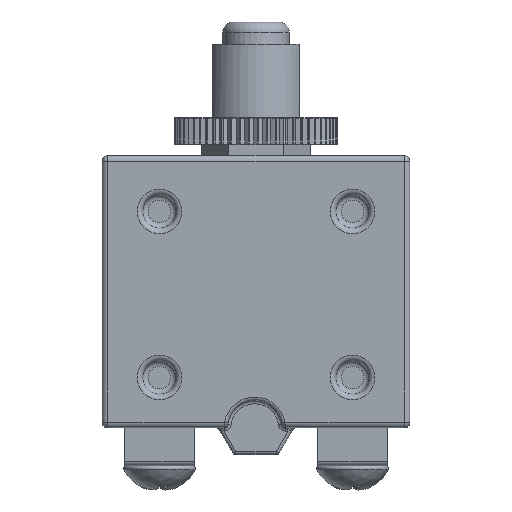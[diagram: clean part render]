
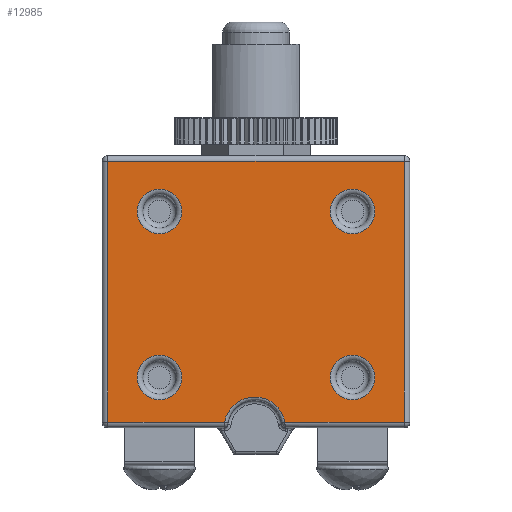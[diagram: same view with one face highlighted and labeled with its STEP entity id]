
A CAD part, top view. The second image highlights one B-rep face of the part: STEP entity #12985.
In plain terms, the highlighted planar face has unit normal (0, 0, 1).
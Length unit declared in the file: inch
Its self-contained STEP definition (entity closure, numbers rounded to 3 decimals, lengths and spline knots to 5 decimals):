
#393=FACE_BOUND('',#3699,.T.);
#394=FACE_BOUND('',#3700,.T.);
#395=FACE_BOUND('',#3701,.T.);
#396=FACE_BOUND('',#3702,.T.);
#420=PLANE('',#14078);
#649=LINE('',#20535,#1528);
#651=LINE('',#20554,#1530);
#652=LINE('',#20556,#1531);
#653=LINE('',#20558,#1532);
#654=LINE('',#20559,#1533);
#1528=VECTOR('',#15984,0.3937);
#1530=VECTOR('',#16010,0.3937);
#1531=VECTOR('',#16011,0.3937);
#1532=VECTOR('',#16012,0.3937);
#1533=VECTOR('',#16013,0.3937);
#2821=FACE_OUTER_BOUND('',#3698,.T.);
#3698=EDGE_LOOP('',(#8873,#8874,#8875,#8876,#8877,#8878));
#3699=EDGE_LOOP('',(#8879));
#3700=EDGE_LOOP('',(#8880));
#3701=EDGE_LOOP('',(#8881));
#3702=EDGE_LOOP('',(#8882));
#4580=CIRCLE('',#14035,0.1375);
#4597=CIRCLE('',#14076,0.1);
#4599=CIRCLE('',#14079,0.1);
#4600=CIRCLE('',#14080,0.1);
#4601=CIRCLE('',#14081,0.1);
#5450=VERTEX_POINT('',#20351);
#5452=VERTEX_POINT('',#20365);
#5465=VERTEX_POINT('',#20534);
#5469=VERTEX_POINT('',#20549);
#5470=VERTEX_POINT('',#20553);
#5471=VERTEX_POINT('',#20555);
#5472=VERTEX_POINT('',#20557);
#5473=VERTEX_POINT('',#20560);
#5474=VERTEX_POINT('',#20562);
#5475=VERTEX_POINT('',#20564);
#6667=EDGE_CURVE('',#5452,#5450,#4580,.T.);
#6703=EDGE_CURVE('',#5450,#5465,#649,.T.);
#6710=EDGE_CURVE('',#5469,#5469,#4597,.T.);
#6712=EDGE_CURVE('',#5470,#5452,#651,.T.);
#6713=EDGE_CURVE('',#5471,#5470,#652,.T.);
#6714=EDGE_CURVE('',#5472,#5471,#653,.T.);
#6715=EDGE_CURVE('',#5465,#5472,#654,.T.);
#6716=EDGE_CURVE('',#5473,#5473,#4599,.T.);
#6717=EDGE_CURVE('',#5474,#5474,#4600,.T.);
#6718=EDGE_CURVE('',#5475,#5475,#4601,.T.);
#8873=ORIENTED_EDGE('',*,*,#6667,.F.);
#8874=ORIENTED_EDGE('',*,*,#6712,.F.);
#8875=ORIENTED_EDGE('',*,*,#6713,.F.);
#8876=ORIENTED_EDGE('',*,*,#6714,.F.);
#8877=ORIENTED_EDGE('',*,*,#6715,.F.);
#8878=ORIENTED_EDGE('',*,*,#6703,.F.);
#8879=ORIENTED_EDGE('',*,*,#6716,.F.);
#8880=ORIENTED_EDGE('',*,*,#6717,.F.);
#8881=ORIENTED_EDGE('',*,*,#6718,.F.);
#8882=ORIENTED_EDGE('',*,*,#6710,.F.);
#12985=ADVANCED_FACE('',(#2821,#393,#394,#395,#396),#420,.T.);
#14035=AXIS2_PLACEMENT_3D('',#20367,#15902,#15903);
#14076=AXIS2_PLACEMENT_3D('',#20550,#16004,#16005);
#14078=AXIS2_PLACEMENT_3D('',#20552,#16008,#16009);
#14079=AXIS2_PLACEMENT_3D('',#20561,#16014,#16015);
#14080=AXIS2_PLACEMENT_3D('',#20563,#16016,#16017);
#14081=AXIS2_PLACEMENT_3D('',#20565,#16018,#16019);
#15902=DIRECTION('center_axis',(0.,0.,1.));
#15903=DIRECTION('ref_axis',(0.,1.,0.));
#15984=DIRECTION('',(-1.,0.,0.));
#16004=DIRECTION('center_axis',(0.,0.,1.));
#16005=DIRECTION('ref_axis',(-1.,0.,0.));
#16008=DIRECTION('center_axis',(0.,0.,1.));
#16009=DIRECTION('ref_axis',(1.,0.,0.));
#16010=DIRECTION('',(-1.,0.,0.));
#16011=DIRECTION('',(0.,-1.,0.));
#16012=DIRECTION('',(1.,0.,0.));
#16013=DIRECTION('',(0.,1.,0.));
#16014=DIRECTION('center_axis',(0.,0.,1.));
#16015=DIRECTION('ref_axis',(-1.,0.,0.));
#16016=DIRECTION('center_axis',(0.,0.,1.));
#16017=DIRECTION('ref_axis',(-1.,0.,0.));
#16018=DIRECTION('center_axis',(0.,0.,1.));
#16019=DIRECTION('ref_axis',(-1.,0.,0.));
#20351=CARTESIAN_POINT('',(0.54902,-0.585,0.57));
#20365=CARTESIAN_POINT('',(0.81943,-0.585,0.57));
#20367=CARTESIAN_POINT('Origin',(0.68423,-0.61,0.57));
#20534=CARTESIAN_POINT('',(0.025,-0.585,0.57));
#20535=CARTESIAN_POINT('',(0.345,-0.585,0.57));
#20549=CARTESIAN_POINT('',(1.223,0.36,0.57));
#20550=CARTESIAN_POINT('Origin',(1.123,0.36,0.57));
#20552=CARTESIAN_POINT('Origin',(0.,0.,0.57));
#20553=CARTESIAN_POINT('',(1.355,-0.585,0.57));
#20554=CARTESIAN_POINT('',(0.345,-0.585,0.57));
#20555=CARTESIAN_POINT('',(1.355,0.585,0.57));
#20556=CARTESIAN_POINT('',(1.355,0.,0.57));
#20557=CARTESIAN_POINT('',(0.025,0.585,0.57));
#20558=CARTESIAN_POINT('',(0.345,0.585,0.57));
#20559=CARTESIAN_POINT('',(0.025,0.,0.57));
#20560=CARTESIAN_POINT('',(0.357,0.36,0.57));
#20561=CARTESIAN_POINT('Origin',(0.257,0.36,0.57));
#20562=CARTESIAN_POINT('',(0.357,-0.385,0.57));
#20563=CARTESIAN_POINT('Origin',(0.257,-0.385,0.57));
#20564=CARTESIAN_POINT('',(1.223,-0.385,0.57));
#20565=CARTESIAN_POINT('Origin',(1.123,-0.385,0.57));
